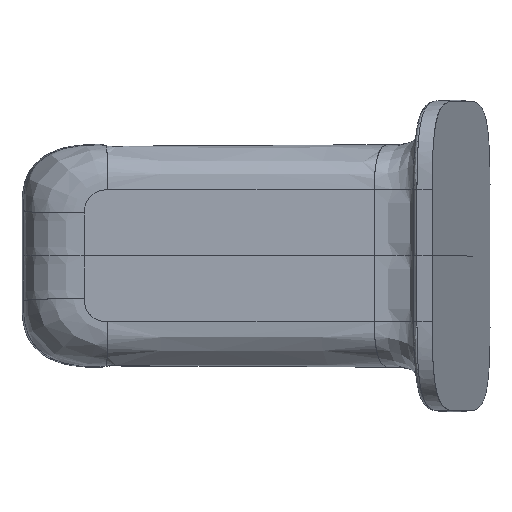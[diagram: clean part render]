
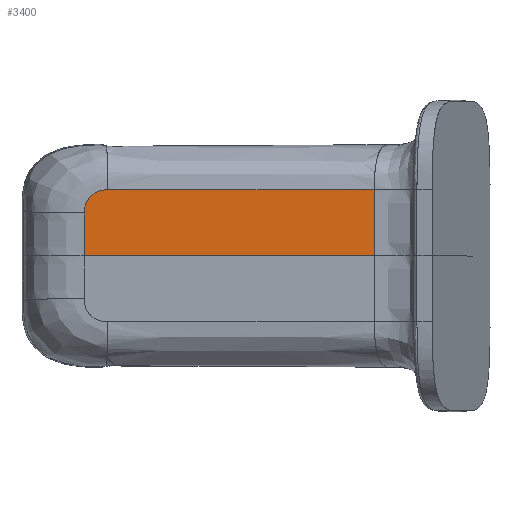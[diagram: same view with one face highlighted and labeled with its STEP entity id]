
A CAD part, top view. The second image highlights one B-rep face of the part: STEP entity #3400.
In plain terms, the highlighted free-form (B-spline) face has degree [1, 1] with [2, 2] control points.
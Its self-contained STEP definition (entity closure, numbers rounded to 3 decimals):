
#294=FACE_OUTER_BOUND('',#436,.T.);
#436=EDGE_LOOP('',(#3104,#3105,#3106,#3107,#3108));
#1094=B_SPLINE_CURVE_WITH_KNOTS('',1,(#13640,#13641),.UNSPECIFIED.,.F.,
 .F.,(2,2),(0.109,0.888),.UNSPECIFIED.);
#1095=B_SPLINE_CURVE_WITH_KNOTS('',1,(#13643,#13644),.UNSPECIFIED.,.F.,
 .F.,(2,2),(0.272,0.7),.UNSPECIFIED.);
#1096=B_SPLINE_CURVE_WITH_KNOTS('',3,(#13646,#13647,#13648,#13649),
 .UNSPECIFIED.,.F.,.F.,(4,4),(-1.99,-0.263),
 .UNSPECIFIED.);
#1097=B_SPLINE_CURVE_WITH_KNOTS('',3,(#13651,#13652,#13653,#13654),
 .UNSPECIFIED.,.F.,.F.,(4,4),(0.,1.),.UNSPECIFIED.);
#1098=B_SPLINE_CURVE_WITH_KNOTS('',1,(#13655,#13656),.UNSPECIFIED.,.F.,
 .F.,(2,2),(-0.7,-0.423),.UNSPECIFIED.);
#1764=VERTEX_POINT('',#13638);
#1765=VERTEX_POINT('',#13639);
#1766=VERTEX_POINT('',#13642);
#1767=VERTEX_POINT('',#13645);
#1768=VERTEX_POINT('',#13650);
#2434=EDGE_CURVE('',#1764,#1765,#1094,.T.);
#2435=EDGE_CURVE('',#1766,#1764,#1095,.T.);
#2436=EDGE_CURVE('',#1767,#1766,#1096,.T.);
#2437=EDGE_CURVE('',#1768,#1767,#1097,.T.);
#2438=EDGE_CURVE('',#1765,#1768,#1098,.T.);
#3104=ORIENTED_EDGE('',*,*,#2434,.F.);
#3105=ORIENTED_EDGE('',*,*,#2435,.F.);
#3106=ORIENTED_EDGE('',*,*,#2436,.F.);
#3107=ORIENTED_EDGE('',*,*,#2437,.F.);
#3108=ORIENTED_EDGE('',*,*,#2438,.F.);
#3258=B_SPLINE_SURFACE_WITH_KNOTS('',1,1,((#13634,#13635),(#13636,#13637)),
 .UNSPECIFIED.,.F.,.F.,.F.,(2,2),(2,2),(0.,1.),(0.,0.7),
 .UNSPECIFIED.);
#3400=ADVANCED_FACE('',(#294),#3258,.T.);
#13634=CARTESIAN_POINT('Ctrl Pts',(2531.515,307.,1654.008));
#13635=CARTESIAN_POINT('Ctrl Pts',(2531.515,300.,1654.008));
#13636=CARTESIAN_POINT('Ctrl Pts',(2507.41,307.,1652.956));
#13637=CARTESIAN_POINT('Ctrl Pts',(2507.41,300.,1652.956));
#13638=CARTESIAN_POINT('',(2528.891,300.,1653.894));
#13639=CARTESIAN_POINT('',(2510.104,300.,1653.074));
#13640=CARTESIAN_POINT('Ctrl Pts',(2528.891,300.,1653.894));
#13641=CARTESIAN_POINT('Ctrl Pts',(2510.104,300.,1653.074));
#13642=CARTESIAN_POINT('',(2528.891,304.283,1653.894));
#13643=CARTESIAN_POINT('Ctrl Pts',(2528.891,304.283,1653.894));
#13644=CARTESIAN_POINT('Ctrl Pts',(2528.891,300.,1653.894));
#13645=CARTESIAN_POINT('',(2511.63,304.282,1653.14));
#13646=CARTESIAN_POINT('Ctrl Pts',(2511.63,304.282,1653.14));
#13647=CARTESIAN_POINT('Ctrl Pts',(2517.384,304.282,1653.391));
#13648=CARTESIAN_POINT('Ctrl Pts',(2523.137,304.282,1653.643));
#13649=CARTESIAN_POINT('Ctrl Pts',(2528.891,304.283,1653.894));
#13650=CARTESIAN_POINT('',(2510.104,302.772,1653.074));
#13651=CARTESIAN_POINT('Ctrl Pts',(2510.104,302.772,1653.074));
#13652=CARTESIAN_POINT('Ctrl Pts',(2510.104,303.656,1653.074));
#13653=CARTESIAN_POINT('Ctrl Pts',(2510.736,304.282,1653.101));
#13654=CARTESIAN_POINT('Ctrl Pts',(2511.63,304.282,1653.14));
#13655=CARTESIAN_POINT('Ctrl Pts',(2510.104,300.,1653.074));
#13656=CARTESIAN_POINT('Ctrl Pts',(2510.104,302.772,1653.074));
